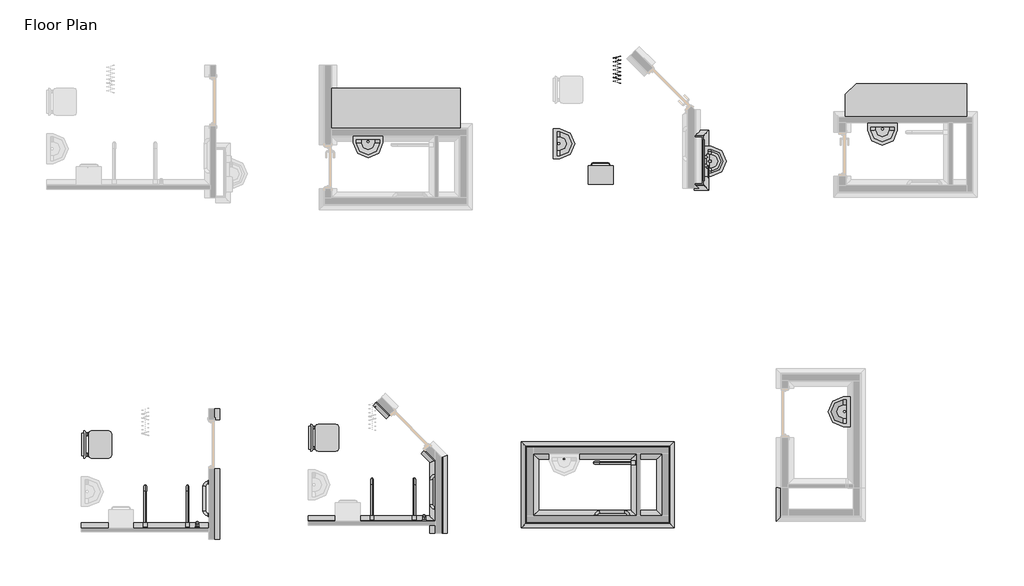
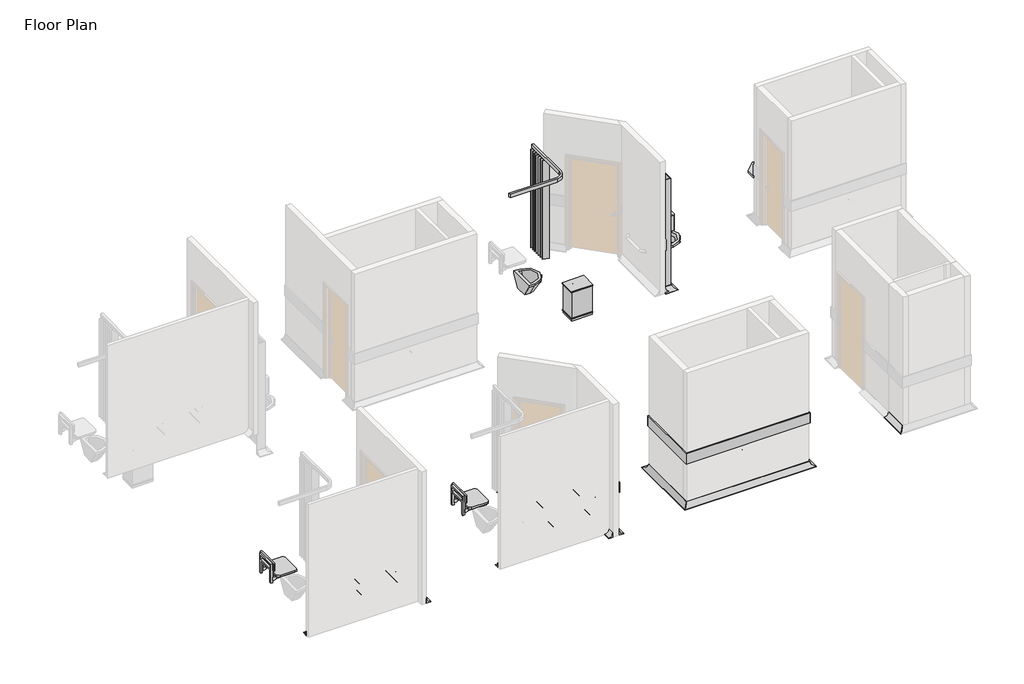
# One storey, part 2 of 4: 34 proxies, 6 flow terminals, 6 furniture elements.
"""IFC4 building model written with IfcOpenShell, lengths in millimetres."""

from ifc_helpers import new_model, si_unit, point, frame, frame_2d, origin, place, context, project, spatial, polyline, circle_curve, ellipse_curve, trimmed, segment, composite_curve, outline, extrude, transform, mapped, element, save
from ifc_brep_helpers import plane_surface, revolved_surface, advanced_brep
from components import generic_models_2748bf89, generic_models_79982e2d, type_1_021b8e3e, type_1_c6378e0a, type_1_5029713c, flow_terminal_1693ed64, flow_terminal_004a381b, flow_terminal_30861e1c, furniture_166ce8d1, furniture_c6a9ce10, furniture_a9c8da33, furniture_eb258ce7, nurse_station_nurse_station_bd2f0480, nurse_station2_nurse_station_97ff44f3

model = new_model("IFC4")

# Units and contexts
model_context = context("Model", 3, world=origin())
ifc_project = project(units=[si_unit("LENGTHUNIT", "METRE", prefix="MILLI")], contexts=[model_context])

# Site, building, storey
site = spatial("IfcSite", under=ifc_project)
building = spatial("IfcBuilding", under=site)
storey = spatial("IfcBuildingStorey", under=building, Name="Floor Plan", Elevation=0.0)

# Proxies
placement = place(None, origin())
element("IfcBuildingElementProxy", 1, Name="Wall Sweeps", at=placement, inside=storey, context=model_context, shape_type="AdvancedBrep", body=[
    advanced_brep(
    [(51772.6778474, -17067.8650189, 0.0), (51672.6778474, -17067.8650189, 0.0), (51672.6778474, -17067.8650189, 10.0), (51762.6778474, -17067.8650189, 100.0), (51772.6778474, -17067.8650189, 100.0), (51772.6778474, -17582.1150189, 0.0), (51772.6778474, -17582.1150189, 100.0), (51762.6778474, -17592.1150189, 100.0), (51672.6778474, -17682.1150189, 10.0), (51672.6778474, -17682.1150189, 0.0)],
    [
        (0, 1),
        (1, 2),
        (2, 3, circle_curve(frame((51672.6778474, -17067.8650189, 100.0), z_axis=(0.0, -1.0, 0.0), x_axis=(-1.0, 0.0, 0.0)), 90.0)),
        (3, 4),
        (4, 0),
        (5, 6),
        (6, 7),
        (7, 8, ellipse_curve(frame((51672.6778474, -17682.1150189, 100.0), z_axis=(-0.7071067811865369, 0.7071067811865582, 0.0), x_axis=(-0.7071067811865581, -0.7071067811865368, 0.0)), 127.2792206, 90.0)),
        (8, 9),
        (9, 5),
        (0, 5),
        (9, 1),
        (8, 2),
        (7, 3),
        (6, 4),
    ],
    [
        plane_surface(frame((51772.6778474, -17067.8650189, -304.8), z_axis=(0.0, 1.0, 0.0), x_axis=(1.0, 0.0, 0.0))),
        plane_surface(frame((51772.6778474, -17582.1150189, -304.8), z_axis=(0.7071067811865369, -0.7071067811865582, 0.0), x_axis=(0.7071067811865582, 0.7071067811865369, 0.0))),
        plane_surface(frame((51772.6778474, -17067.8650189, 0.0), z_axis=(0.0, 0.0, -1.0), x_axis=(0.0, -1.0, 0.0))),
        plane_surface(frame((51672.6778474, -17067.8650189, 0.0), z_axis=(-1.0, 0.0, 0.0), x_axis=(0.0, -1.0, 0.0))),
        revolved_surface(polyline([(51582.6778474, -17772.115018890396, 100.0), (51582.6778474, -17067.8650189, 100.0)]), (51672.6778474, -17067.8650189, 100.0), (0.0, -1.0, 0.0)),
        plane_surface(frame((51762.6778474, -17067.8650189, 100.0), z_axis=(0.0, 0.0, 1.0), x_axis=(0.0, -1.0, 0.0))),
        plane_surface(frame((51772.6778474, -17067.8650189, 100.0), z_axis=(1.0, 0.0, 0.0), x_axis=(0.0, -1.0, 0.0))),
    ],
    [
        (0, [[1, 2, 3, 4, 5]]),
        (1, [[6, 7, 8, 9, 10]]),
        (2, [[-1, 11, -10, 12]]),
        (3, [[-2, -12, -9, 13]]),
        (4, [[-3, -13, -8, 14]]),
        (5, [[-4, -14, -7, 15]]),
        (6, [[-5, -15, -6, -11]]),
    ],
),
])
element("IfcBuildingElementProxy", 2, Name="Wall Sweeps", at=placement, inside=storey, context=model_context, shape_type="AdvancedBrep", body=[
    advanced_brep(
    [(45514.4332264, -16509.531488, 0.0), (45514.4332264, -16509.531488, 100.0), (45524.4332264, -16505.3893523, 100.0), (45614.4332264, -16468.1101317, 10.0), (45614.4332264, -16468.1101317, 0.0), (45514.4332264, -17901.9449619, 0.0), (45614.4332264, -17901.9449619, 0.0), (45614.4332264, -17901.9449619, 10.0), (45524.4332264, -17901.9449619, 100.0), (45514.4332264, -17901.9449619, 100.0)],
    [
        (0, 1),
        (1, 2),
        (2, 3, ellipse_curve(frame((45614.4332264, -16468.1101317, 100.0), z_axis=(0.3826834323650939, -0.9238795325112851, 0.0), x_axis=(-0.9238795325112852, -0.38268343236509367, 0.0)), 97.415298, 90.0)),
        (3, 4),
        (4, 0),
        (5, 6),
        (6, 7),
        (7, 8, circle_curve(frame((45614.4332264, -17901.9449619, 100.0), z_axis=(0.0, 1.0, 0.0), x_axis=(1.0, 0.0, 0.0)), 90.0)),
        (8, 9),
        (9, 5),
        (0, 5),
        (9, 1),
        (8, 2),
        (7, 3),
        (6, 4),
    ],
    [
        plane_surface(frame((45514.4332264, -16509.531488, 304.8), z_axis=(-0.3826834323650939, 0.9238795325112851, 0.0), x_axis=(-0.9238795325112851, -0.3826834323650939, 0.0))),
        plane_surface(frame((45413.9344702, -17901.9449619, 0.0), z_axis=(0.0, -1.0, 0.0), x_axis=(0.0, 0.0, -1.0))),
        plane_surface(frame((45514.4332264, -16509.531488, 0.0), z_axis=(-1.0, 0.0, 0.0), x_axis=(0.0, -1.0, 0.0))),
        plane_surface(frame((45514.4332264, -16509.531488, 100.0), z_axis=(0.0, 0.0, 1.0), x_axis=(0.0, -1.0, 0.0))),
        revolved_surface(polyline([(45704.4332264, -17901.9449619, 100.0), (45704.4332264, -16430.83091109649, 100.0)]), (45614.4332264, -16509.531488, 100.0), (0.0, -1.0, 0.0)),
        plane_surface(frame((45614.4332264, -16468.1101317, 10.0), z_axis=(1.0, 0.0, 0.0), x_axis=(0.0, -1.0, 0.0))),
        plane_surface(frame((45614.4332264, -16468.1101317, 0.0), z_axis=(0.0, 0.0, -1.0), x_axis=(0.0, -1.0, 0.0))),
    ],
    [
        (0, [[1, 2, 3, 4, 5]]),
        (1, [[6, 7, 8, 9, 10]]),
        (2, [[-1, 11, -10, 12]]),
        (3, [[-2, -12, -9, 13]]),
        (4, [[-3, -13, -8, 14]]),
        (5, [[-4, -14, -7, 15]]),
        (6, [[-5, -15, -6, -11]]),
    ],
),
])
element("IfcBuildingElementProxy", 3, Name="Wall Sweeps", at=placement, inside=storey, context=model_context, shape_type="SweptSolid", body=[
    extrude(outline(composite_curve([segment(polyline([(-17685.4449619, 0.0), (-17685.4449619, 100.0), (-17675.4449619, 100.0)]), True, "CONTINUOUS"), segment(trimmed(circle_curve(frame_2d((-17585.4449619, 100.0)), 90.0), [point((-17675.4449619, 100.0))], [point((-17585.4449619, 10.0))], True, "CARTESIAN"), True, "CONTINUOUS"), segment(polyline([(-17585.4449619, 10.0), (-17585.4449619, 0.0), (-17685.4449619, 0.0)]), True, "CONTINUOUS")], self_intersect=False)), frame((43053.6832264, 0.0, 0.0), z_axis=(1.0, 0.0, 0.0), x_axis=(0.0, 1.0, 0.0)), (0.0, 0.0, 1.0), 2339.25),
])
element("IfcBuildingElementProxy", 4, Name="Wall Sweeps", at=placement, inside=storey, context=model_context, shape_type="AdvancedBrep", body=[
    advanced_brep(
    [(45392.9332264, -16559.8584358, 0.0), (45292.9332264, -16601.279792, 0.0), (45292.9332264, -16601.279792, 10.0), (45382.9332264, -16564.0005714, 100.0), (45392.9332264, -16559.8584358, 100.0), (45392.9332264, -17901.9449619, 0.0), (45392.9332264, -17901.9449619, 100.0), (45382.9332264, -17901.9449619, 100.0), (45292.9332264, -17901.9449619, 10.0), (45292.9332264, -17901.9449619, 0.0)],
    [
        (0, 1),
        (1, 2),
        (2, 3, ellipse_curve(frame((45292.9332264, -16601.279792, 100.0), z_axis=(0.3826834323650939, -0.9238795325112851, 0.0), x_axis=(-0.9238795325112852, -0.38268343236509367, 0.0)), 97.415298, 90.0)),
        (3, 4),
        (4, 0),
        (5, 6),
        (6, 7),
        (7, 8, circle_curve(frame((45292.9332264, -17901.9449619, 100.0), z_axis=(0.0, 1.0, 0.0), x_axis=(-1.0, 0.0, 0.0)), 90.0)),
        (8, 9),
        (9, 5),
        (0, 5),
        (9, 1),
        (8, 2),
        (7, 3),
        (6, 4),
    ],
    [
        plane_surface(frame((45392.9332264, -16559.8584358, 304.8), z_axis=(-0.3826834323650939, 0.9238795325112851, 0.0), x_axis=(-0.9238795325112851, -0.3826834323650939, 0.0))),
        plane_surface(frame((45292.4344702, -17901.9449619, 0.0), z_axis=(0.0, -1.0, 0.0), x_axis=(0.0, 0.0, -1.0))),
        plane_surface(frame((45392.9332264, -16559.8584358, 0.0), z_axis=(0.0, 0.0, -1.0), x_axis=(0.0, -1.0, 0.0))),
        plane_surface(frame((45292.9332264, -16601.279792, 0.0), z_axis=(-1.0, 0.0, 0.0), x_axis=(0.0, -1.0, 0.0))),
        revolved_surface(polyline([(45202.9332264, -17901.9449619, 100.0), (45202.9332264, -16564.000571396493, 100.0)]), (45292.9332264, -16559.8584358, 100.0), (0.0, -1.0, 0.0)),
        plane_surface(frame((45382.9332264, -16564.0005714, 100.0), z_axis=(0.0, 0.0, 1.0), x_axis=(0.0, -1.0, 0.0))),
        plane_surface(frame((45392.9332264, -16559.8584358, 100.0), z_axis=(1.0, 0.0, 0.0), x_axis=(0.0, -1.0, 0.0))),
    ],
    [
        (0, [[1, 2, 3, 4, 5]]),
        (1, [[6, 7, 8, 9, 10]]),
        (2, [[-1, 11, -10, 12]]),
        (3, [[-2, -12, -9, 13]]),
        (4, [[-3, -13, -8, 14]]),
        (5, [[-4, -14, -7, 15]]),
        (6, [[-5, -15, -6, -11]]),
    ],
),
])
element("IfcBuildingElementProxy", 5, Name="Wall Sweeps", at=placement, inside=storey, context=model_context, shape_type="SweptSolid", body=[
    extrude(outline(polyline([(45514.4332264, -16509.531488), (45533.4332264, -16509.531488), (45533.4332264, -17901.9449619), (45514.4332264, -17901.9449619), (45514.4332264, -16509.531488)])), frame((0.0, 0.0, 965.0), z_axis=(0.0, 0.0, 1.0), x_axis=(1.0, 0.0, 0.0)), (0.0, 0.0, 1.0), 235.0),
])
element("IfcBuildingElementProxy", 6, Name="Wall Sweeps", at=placement, inside=storey, context=model_context, shape_type="AdvancedBrep", body=[
    advanced_brep(
    [(44557.8824142, -15724.8076236, 0.0), (44557.8824142, -15724.8076236, 100.0), (44550.8113464, -15731.8786914, 100.0), (44487.1717361, -15795.5183017, 10.0), (44487.1717361, -15795.5183017, 0.0), (44317.2264894, -15484.1516988, 0.0), (44246.5158113, -15554.8623769, 0.0), (44246.5158113, -15554.8623769, 10.0), (44310.1554216, -15491.2227666, 100.0), (44317.2264894, -15484.1516988, 100.0)],
    [
        (0, 1),
        (1, 2),
        (2, 3, circle_curve(frame((44487.1717361, -15795.5183017, 100.0), z_axis=(-0.7071067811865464, 0.7071067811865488, 0.0), x_axis=(-0.7071067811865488, -0.7071067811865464, 0.0)), 90.0)),
        (3, 4),
        (4, 0),
        (5, 6),
        (6, 7),
        (7, 8, circle_curve(frame((44246.5158113, -15554.8623769, 100.0), z_axis=(0.7071067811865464, -0.7071067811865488, 0.0), x_axis=(-0.7071067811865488, -0.7071067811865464, 0.0)), 90.0)),
        (8, 9),
        (9, 5),
        (0, 5),
        (9, 1),
        (8, 2),
        (7, 3),
        (6, 4),
    ],
    [
        plane_surface(frame((44557.8824142, -15724.8076236, 100.4987562), z_axis=(0.707106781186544, -0.7071067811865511, 0.0), x_axis=(0.7071067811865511, 0.707106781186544, 0.0))),
        plane_surface(frame((44317.2264894, -15484.1516988, 100.4987562), z_axis=(-0.707106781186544, 0.7071067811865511, 0.0), x_axis=(0.7071067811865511, 0.707106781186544, 0.0))),
        plane_surface(frame((44557.8824142, -15724.8076236, 0.0), z_axis=(0.7071067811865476, 0.7071067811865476, 0.0), x_axis=(-0.7071067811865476, 0.7071067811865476, 0.0))),
        plane_surface(frame((44557.8824142, -15724.8076236, 100.0), z_axis=(0.0, 0.0, 1.0000000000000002), x_axis=(-0.7071067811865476, 0.7071067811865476, 0.0))),
        revolved_surface(polyline([(44182.87620099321, -15618.50198720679, 100.0), (44423.53212579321, -15859.157912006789, 100.0)]), (44487.1717361, -15795.5183017, 100.0), (-0.7071067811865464, 0.7071067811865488, 0.0)),
        plane_surface(frame((44487.1717361, -15795.5183017, 10.0), z_axis=(-0.7071067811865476, -0.7071067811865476, 0.0), x_axis=(-0.7071067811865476, 0.7071067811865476, 0.0))),
        plane_surface(frame((44487.1717361, -15795.5183017, 0.0), z_axis=(0.0, 0.0, -1.0000000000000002), x_axis=(-0.7071067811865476, 0.7071067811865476, 0.0))),
    ],
    [
        (0, [[1, 2, 3, 4, 5]]),
        (1, [[6, 7, 8, 9, 10]]),
        (2, [[-1, 11, -10, 12]]),
        (3, [[-2, -12, -9, 13]]),
        (4, [[-3, -13, -8, 14]]),
        (5, [[-4, -14, -7, 15]]),
        (6, [[-5, -15, -6, -11]]),
    ],
),
    advanced_brep(
    [(45392.9332264, -16559.8584358, 0.0), (45392.9332264, -16559.8584358, 100.0), (45382.9332264, -16564.0005714, 100.0), (45292.9332264, -16601.279792, 10.0), (45292.9332264, -16601.279792, 0.0), (45201.3495851, -16368.2747945, 0.0), (45130.638907, -16438.9854726, 0.0), (45130.638907, -16438.9854726, 10.0), (45194.2785173, -16375.3458623, 100.0), (45201.3495851, -16368.2747945, 100.0)],
    [
        (0, 1),
        (1, 2),
        (2, 3, ellipse_curve(frame((45292.9332264, -16601.279792, 100.0), z_axis=(-0.3826834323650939, 0.9238795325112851, 0.0), x_axis=(-0.9238795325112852, -0.38268343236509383, 0.0)), 97.415298, 90.0)),
        (3, 4),
        (4, 0),
        (5, 6),
        (6, 7),
        (7, 8, circle_curve(frame((45130.638907, -16438.9854726, 100.0), z_axis=(0.7071067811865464, -0.7071067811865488, 0.0), x_axis=(-0.7071067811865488, -0.7071067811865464, 0.0)), 90.0)),
        (8, 9),
        (9, 5),
        (0, 5),
        (9, 1),
        (8, 2),
        (7, 3),
        (6, 4),
    ],
    [
        plane_surface(frame((45392.9332264, -16559.8584358, -304.8), z_axis=(0.3826834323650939, -0.9238795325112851, 0.0), x_axis=(-0.9238795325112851, -0.3826834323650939, 0.0))),
        plane_surface(frame((45201.3495851, -16368.2747945, 100.4987562), z_axis=(-0.7071067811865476, 0.7071067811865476, 0.0), x_axis=(0.7071067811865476, 0.7071067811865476, 0.0))),
        plane_surface(frame((45392.9332264, -16559.8584358, 0.0), z_axis=(0.7071067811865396, 0.7071067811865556, 0.0), x_axis=(-0.7071067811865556, 0.7071067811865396, 0.0))),
        plane_surface(frame((45392.9332264, -16559.8584358, 100.0), z_axis=(0.0, 0.0, 1.0), x_axis=(-0.7071067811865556, 0.7071067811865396, 0.0))),
        revolved_surface(polyline([(45066.99929669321, -16502.62508290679, 100.0), (45255.65400579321, -16691.279792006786, 100.0)]), (45322.2225483, -16630.5691139, 100.0), (-0.7071067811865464, 0.7071067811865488, 0.0)),
        plane_surface(frame((45292.9332264, -16601.279792, 10.0), z_axis=(-0.7071067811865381, -0.707106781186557, 0.0), x_axis=(-0.707106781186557, 0.7071067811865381, 0.0))),
        plane_surface(frame((45292.9332264, -16601.279792, 0.0), z_axis=(0.0, 0.0, -1.0000000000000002), x_axis=(-0.707106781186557, 0.7071067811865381, 0.0))),
    ],
    [
        (0, [[1, 2, 3, 4, 5]]),
        (1, [[6, 7, 8, 9, 10]]),
        (2, [[-1, 11, -10, 12]]),
        (3, [[-2, -12, -9, 13]]),
        (4, [[-3, -13, -8, 14]]),
        (5, [[-4, -14, -7, 15]]),
        (6, [[-5, -15, -6, -11]]),
    ],
),
])
element("IfcBuildingElementProxy", 7, Name="Wall Sweeps", at=placement, inside=storey, context=model_context, shape_type="SweptSolid", body=[
    extrude(outline(polyline([(44557.8824142, -15724.8076236), (44544.4473853, -15738.2426524), (44303.7914606, -15497.5867277), (44317.2264894, -15484.1516988), (44557.8824142, -15724.8076236)])), frame((0.0, 0.0, 965.0), z_axis=(0.0, 0.0, 1.0), x_axis=(1.0, 0.0, 0.0)), (0.0, 0.0, 1.0), 235.0),
    extrude(outline(polyline([(45392.9332264, -16559.8584358), (45379.4981976, -16573.2934646), (45187.9145562, -16381.7098233), (45201.3495851, -16368.2747945), (45392.9332264, -16559.8584358)])), frame((0.0, 0.0, 965.0), z_axis=(0.0, 0.0, 1.0), x_axis=(1.0, 0.0, 0.0)), (0.0, 0.0, 1.0), 235.0),
])
element("IfcBuildingElementProxy", 8, Name="Wall Sweeps", at=placement, inside=storey, context=model_context, shape_type="SweptSolid", body=[
    extrude(outline(composite_curve([segment(polyline([(0.0, 41325.3426729), (0.0, 41425.3426729), (10.0, 41425.3426729)]), True, "CONTINUOUS"), segment(trimmed(circle_curve(frame_2d((100.0, 41425.3426729)), 90.0), [point((10.0, 41425.3426729))], [point((100.0, 41335.3426729))], True, "CARTESIAN"), True, "CONTINUOUS"), segment(polyline([(100.0, 41335.3426729), (100.0, 41325.3426729), (0.0, 41325.3426729)]), True, "CONTINUOUS")], self_intersect=False)), frame((0.0, -18009.8718225, 0.0), z_axis=(0.0, 1.0, 0.0), x_axis=(0.0, 0.0, 1.0)), (0.0, 0.0, 1.0), 1290.0),
    extrude(outline(composite_curve([segment(polyline([(0.0, 41325.3426729), (0.0, 41425.3426729), (10.0, 41425.3426729)]), True, "CONTINUOUS"), segment(trimmed(circle_curve(frame_2d((100.0, 41425.3426729)), 90.0), [point((10.0, 41425.3426729))], [point((100.0, 41335.3426729))], True, "CARTESIAN"), True, "CONTINUOUS"), segment(polyline([(100.0, 41335.3426729), (100.0, 41325.3426729), (0.0, 41325.3426729)]), True, "CONTINUOUS")], self_intersect=False)), frame((0.0, -15809.8718225, 0.0), z_axis=(0.0, 1.0, 0.0), x_axis=(0.0, 0.0, 1.0)), (0.0, 0.0, 1.0), 200.0),
])
element("IfcBuildingElementProxy", 9, Name="Wall Sweeps", at=placement, inside=storey, context=model_context, shape_type="SweptSolid", body=[
    extrude(outline(composite_curve([segment(polyline([(-17809.8718225, 0.0), (-17809.8718225, 100.0), (-17799.8718225, 100.0)]), True, "CONTINUOUS"), segment(trimmed(circle_curve(frame_2d((-17709.8718225, 100.0)), 90.0), [point((-17799.8718225, 100.0))], [point((-17709.8718225, 10.0))], True, "CARTESIAN"), True, "CONTINUOUS"), segment(polyline([(-17709.8718225, 10.0), (-17709.8718225, 0.0), (-17809.8718225, 0.0)]), True, "CONTINUOUS")], self_intersect=False)), frame((38875.3426729, 0.0, 0.0), z_axis=(1.0, 0.0, 0.0), x_axis=(0.0, 1.0, 0.0)), (0.0, 0.0, 1.0), 2350.0),
])
element("IfcBuildingElementProxy", 10, Name="Wall Sweeps", at=placement, inside=storey, context=model_context, shape_type="AdvancedBrep", body=[
    advanced_brep(
    [(47076.3138428, -17703.6150189, 0.0), (46976.3138428, -17803.6150189, 0.0), (46976.3138428, -17803.6150189, 10.0), (47066.3138428, -17713.6150189, 100.0), (47076.3138428, -17703.6150189, 100.0), (49692.8138428, -17703.6150189, 0.0), (49692.8138428, -17703.6150189, 100.0), (49702.8138428, -17713.6150189, 100.0), (49792.8138428, -17803.6150189, 10.0), (49792.8138428, -17803.6150189, 0.0)],
    [
        (0, 1),
        (1, 2),
        (2, 3, ellipse_curve(frame((46976.3138428, -17803.6150189, 100.0), z_axis=(0.7071067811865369, -0.7071067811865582, 0.0), x_axis=(0.707106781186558, 0.7071067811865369, 0.0)), 127.2792206, 90.0)),
        (3, 4),
        (4, 0),
        (5, 6),
        (6, 7),
        (7, 8, ellipse_curve(frame((49792.8138428, -17803.6150189, 100.0), z_axis=(-0.7071067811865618, -0.7071067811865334, 0.0), x_axis=(0.7071067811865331, -0.7071067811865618, 0.0)), 127.2792206, 90.0)),
        (8, 9),
        (9, 5),
        (4, 6),
        (5, 0),
        (3, 7),
        (2, 8),
        (1, 9),
    ],
    [
        plane_surface(frame((47076.3138428, -17703.6150189, -304.8), z_axis=(-0.7071067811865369, 0.7071067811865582, 0.0), x_axis=(0.7071067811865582, 0.7071067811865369, 0.0))),
        plane_surface(frame((49692.8138428, -17703.6150189, -304.8), z_axis=(0.7071067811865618, 0.7071067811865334, 0.0), x_axis=(-0.7071067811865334, 0.7071067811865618, 0.0))),
        plane_surface(frame((47076.3138428, -17703.6150189, 100.0), z_axis=(0.0, 1.0, 0.0), x_axis=(1.0, 0.0, 0.0))),
        plane_surface(frame((47066.3138428, -17713.6150189, 100.0), z_axis=(0.0, 0.0, 1.0), x_axis=(1.0, 0.0, 0.0))),
        revolved_surface(polyline([(49882.8138427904, -17893.6150189, 100.0), (46886.3138428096, -17893.6150189, 100.0)]), (47076.3138428, -17803.6150189, 100.0), (1.0, 0.0, 0.0)),
        plane_surface(frame((46976.3138428, -17803.6150189, 0.0), z_axis=(0.0, -1.0, 0.0), x_axis=(1.0, 0.0, 0.0))),
        plane_surface(frame((47076.3138428, -17703.6150189, 0.0), z_axis=(0.0, 0.0, -1.0), x_axis=(1.0, 0.0, 0.0))),
    ],
    [
        (0, [[1, 2, 3, 4, 5]]),
        (1, [[6, 7, 8, 9, 10]]),
        (2, [[-5, 11, -6, 12]]),
        (3, [[-4, 13, -7, -11]]),
        (4, [[-3, 14, -8, -13]]),
        (5, [[-2, 15, -9, -14]]),
        (6, [[-1, -12, -10, -15]]),
    ],
),
])
element("IfcBuildingElementProxy", 11, Name="Wall Sweeps", at=placement, inside=storey, context=model_context, shape_type="AdvancedBrep", body=[
    advanced_brep(
    [(47197.8138428, -17582.1150189, 0.0), (47197.8138428, -17582.1150189, 100.0), (47207.8138428, -17572.1150189, 100.0), (47297.8138428, -17482.1150189, 10.0), (47297.8138428, -17482.1150189, 0.0), (49571.3138428, -17582.1150189, 0.0), (49471.3138428, -17482.1150189, 0.0), (49471.3138428, -17482.1150189, 10.0), (49561.3138428, -17572.1150189, 100.0), (49571.3138428, -17582.1150189, 100.0)],
    [
        (0, 1),
        (1, 2),
        (2, 3, ellipse_curve(frame((47297.8138428, -17482.1150189, 100.0), z_axis=(0.7071067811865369, -0.7071067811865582, 0.0), x_axis=(0.707106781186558, 0.7071067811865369, 0.0)), 127.2792206, 90.0)),
        (3, 4),
        (4, 0),
        (5, 6),
        (6, 7),
        (7, 8, ellipse_curve(frame((49471.3138428, -17482.1150189, 100.0), z_axis=(-0.7071067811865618, -0.7071067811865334, 0.0), x_axis=(0.7071067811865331, -0.7071067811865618, 0.0)), 127.2792206, 90.0)),
        (8, 9),
        (9, 5),
        (4, 6),
        (5, 0),
        (3, 7),
        (2, 8),
        (1, 9),
    ],
    [
        plane_surface(frame((47197.8138428, -17582.1150189, -304.8), z_axis=(-0.7071067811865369, 0.7071067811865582, 0.0), x_axis=(0.7071067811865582, 0.7071067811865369, 0.0))),
        plane_surface(frame((49571.3138428, -17582.1150189, -304.8), z_axis=(0.7071067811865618, 0.7071067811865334, 0.0), x_axis=(-0.7071067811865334, 0.7071067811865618, 0.0))),
        plane_surface(frame((47297.8138428, -17482.1150189, 0.0), z_axis=(0.0, 0.0, -1.0), x_axis=(1.0, 0.0, 0.0))),
        plane_surface(frame((47297.8138428, -17482.1150189, 10.0), z_axis=(0.0, 1.0, 0.0), x_axis=(1.0, 0.0, 0.0))),
        revolved_surface(polyline([(49561.3138428, -17392.1150189, 100.0), (47207.8138428, -17392.1150189, 100.0)]), (47197.8138428, -17482.1150189, 100.0), (1.0, 0.0, 0.0)),
        plane_surface(frame((47197.8138428, -17582.1150189, 100.0), z_axis=(0.0, 0.0, 1.0), x_axis=(1.0, 0.0, 0.0))),
        plane_surface(frame((47197.8138428, -17582.1150189, 0.0), z_axis=(0.0, -1.0, 0.0), x_axis=(1.0, 0.0, 0.0))),
    ],
    [
        (0, [[1, 2, 3, 4, 5]]),
        (1, [[6, 7, 8, 9, 10]]),
        (2, [[-5, 11, -6, 12]]),
        (3, [[-4, 13, -7, -11]]),
        (4, [[-3, 14, -8, -13]]),
        (5, [[-2, 15, -9, -14]]),
        (6, [[-1, -12, -10, -15]]),
    ],
),
])
element("IfcBuildingElementProxy", 12, Name="Wall Sweeps", at=placement, inside=storey, context=model_context, shape_type="SweptSolid", body=[
    extrude(outline(polyline([(47057.3138428, -17722.6150189), (47076.3138428, -17703.6150189), (49692.8138428, -17703.6150189), (49711.8138428, -17722.6150189), (47057.3138428, -17722.6150189)])), frame((0.0, 0.0, 965.0), z_axis=(0.0, 0.0, 1.0), x_axis=(1.0, 0.0, 0.0)), (0.0, 0.0, 1.0), 235.0),
])
element("IfcBuildingElementProxy", 13, Name="Wall Sweeps", at=placement, inside=storey, context=model_context, shape_type="AdvancedBrep", body=[
    advanced_brep(
    [(47076.3138428, -17703.6150189, 0.0), (47076.3138428, -17703.6150189, 100.0), (47066.3138428, -17713.6150189, 100.0), (46976.3138428, -17803.6150189, 10.0), (46976.3138428, -17803.6150189, 0.0), (47076.3138428, -16321.3650189, 0.0), (46976.3138428, -16221.3650189, 0.0), (46976.3138428, -16221.3650189, 10.0), (47066.3138428, -16311.3650189, 100.0), (47076.3138428, -16321.3650189, 100.0), (47076.3138428, -17582.1150189, 0.0)],
    [
        (0, 1),
        (1, 2),
        (2, 3, ellipse_curve(frame((46976.3138428, -17803.6150189, 100.0), z_axis=(-0.7071067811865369, 0.7071067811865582, 0.0), x_axis=(0.7071067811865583, 0.7071067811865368, 0.0)), 127.2792206, 90.0)),
        (3, 4),
        (4, 0),
        (5, 6),
        (6, 7),
        (7, 8, ellipse_curve(frame((46976.3138428, -16221.3650189, 100.0), z_axis=(-0.7071067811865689, -0.7071067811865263, 0.0), x_axis=(-0.7071067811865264, 0.7071067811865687, 0.0)), 127.2792206, 90.0)),
        (8, 9),
        (9, 5),
        (0, 10),
        (10, 5),
        (9, 1),
        (8, 2),
        (7, 3),
        (6, 4),
    ],
    [
        plane_surface(frame((47076.3138428, -17703.6150189, 304.8), z_axis=(0.7071067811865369, -0.7071067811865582, 0.0), x_axis=(0.7071067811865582, 0.7071067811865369, 0.0))),
        plane_surface(frame((47076.3138428, -16321.3650189, 304.8), z_axis=(0.7071067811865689, 0.7071067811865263, 0.0), x_axis=(0.7071067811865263, -0.7071067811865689, 0.0))),
        plane_surface(frame((47076.3138428, -17703.6150189, 0.0), z_axis=(1.0, 0.0, 0.0), x_axis=(0.0, 1.0, 0.0))),
        plane_surface(frame((47076.3138428, -17703.6150189, 100.0), z_axis=(0.0, 0.0, 1.0), x_axis=(0.0, 1.0, 0.0))),
        revolved_surface(polyline([(46886.3138428, -16131.365018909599, 100.0), (46886.3138428, -17893.615018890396, 100.0)]), (46976.3138428, -17703.6150189, 100.0), (0.0, 1.0, 0.0)),
        plane_surface(frame((46976.3138428, -17803.6150189, 10.0), z_axis=(-1.0, 0.0, 0.0), x_axis=(0.0, 1.0, 0.0))),
        plane_surface(frame((46976.3138428, -17803.6150189, 0.0), z_axis=(0.0, 0.0, -1.0), x_axis=(0.0, 1.0, 0.0))),
    ],
    [
        (0, [[1, 2, 3, 4, 5]]),
        (1, [[6, 7, 8, 9, 10]]),
        (2, [[-1, 11, 12, -10, 13]]),
        (3, [[-2, -13, -9, 14]]),
        (4, [[-3, -14, -8, 15]]),
        (5, [[-4, -15, -7, 16]]),
        (6, [[-5, -16, -6, -12, -11]]),
    ],
),
])
element("IfcBuildingElementProxy", 14, Name="Wall Sweeps", at=placement, inside=storey, context=model_context, shape_type="AdvancedBrep", body=[
    advanced_brep(
    [(47197.8138428, -17582.1150189, 0.0), (47297.8138428, -17482.1150189, 0.0), (47297.8138428, -17482.1150189, 10.0), (47207.8138428, -17572.1150189, 100.0), (47197.8138428, -17582.1150189, 100.0), (47197.8138428, -16442.8650189, 0.0), (47197.8138428, -16442.8650189, 100.0), (47207.8138428, -16452.8650189, 100.0), (47297.8138428, -16542.8650189, 10.0), (47297.8138428, -16542.8650189, 0.0)],
    [
        (0, 1),
        (1, 2),
        (2, 3, ellipse_curve(frame((47297.8138428, -17482.1150189, 100.0), z_axis=(-0.7071067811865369, 0.7071067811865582, 0.0), x_axis=(0.7071067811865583, 0.7071067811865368, 0.0)), 127.2792206, 90.0)),
        (3, 4),
        (4, 0),
        (5, 6),
        (6, 7),
        (7, 8, ellipse_curve(frame((47297.8138428, -16542.8650189, 100.0), z_axis=(-0.7071067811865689, -0.7071067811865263, 0.0), x_axis=(-0.7071067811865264, 0.7071067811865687, 0.0)), 127.2792206, 90.0)),
        (8, 9),
        (9, 5),
        (0, 5),
        (9, 1),
        (8, 2),
        (7, 3),
        (6, 4),
    ],
    [
        plane_surface(frame((47197.8138428, -17582.1150189, 304.8), z_axis=(0.7071067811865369, -0.7071067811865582, 0.0), x_axis=(0.7071067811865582, 0.7071067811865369, 0.0))),
        plane_surface(frame((47197.8138428, -16442.8650189, 304.8), z_axis=(0.7071067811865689, 0.7071067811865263, 0.0), x_axis=(0.7071067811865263, -0.7071067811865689, 0.0))),
        plane_surface(frame((47197.8138428, -17582.1150189, 0.0), z_axis=(0.0, 0.0, -1.0), x_axis=(0.0, 1.0, 0.0))),
        plane_surface(frame((47297.8138428, -17482.1150189, 0.0), z_axis=(1.0, 0.0, 0.0), x_axis=(0.0, 1.0, 0.0))),
        revolved_surface(polyline([(47387.8138428, -16452.8650189, 100.0), (47387.8138428, -17572.1150189, 100.0)]), (47297.8138428, -17582.1150189, 100.0), (0.0, 1.0, 0.0)),
        plane_surface(frame((47207.8138428, -17572.1150189, 100.0), z_axis=(0.0, 0.0, 1.0), x_axis=(0.0, 1.0, 0.0))),
        plane_surface(frame((47197.8138428, -17582.1150189, 100.0), z_axis=(-1.0, 0.0, 0.0), x_axis=(0.0, 1.0, 0.0))),
    ],
    [
        (0, [[1, 2, 3, 4, 5]]),
        (1, [[6, 7, 8, 9, 10]]),
        (2, [[-1, 11, -10, 12]]),
        (3, [[-2, -12, -9, 13]]),
        (4, [[-3, -13, -8, 14]]),
        (5, [[-4, -14, -7, 15]]),
        (6, [[-5, -15, -6, -11]]),
    ],
),
])
element("IfcBuildingElementProxy", 15, Name="Wall Sweeps", at=placement, inside=storey, context=model_context, shape_type="SweptSolid", body=[
    extrude(outline(polyline([(47076.3138428, -17703.6150189), (47057.3138428, -17722.6150189), (47057.3138428, -16302.3650189), (47076.3138428, -16321.3650189), (47076.3138428, -17703.6150189)])), frame((0.0, 0.0, 965.0), z_axis=(0.0, 0.0, 1.0), x_axis=(1.0, 0.0, 0.0)), (0.0, 0.0, 1.0), 235.0),
])
element("IfcBuildingElementProxy", 16, Name="Wall Sweeps", at=placement, inside=storey, context=model_context, shape_type="SweptSolid", body=[
    extrude(outline(composite_curve([segment(polyline([(0.0, 49102.8138428), (100.0, 49102.8138428), (100.0, 49092.8138428)]), True, "CONTINUOUS"), segment(trimmed(circle_curve(frame_2d((100.0, 49002.8138428)), 90.0), [point((100.0, 49092.8138428))], [point((10.0, 49002.8138428))], True, "CARTESIAN"), True, "CONTINUOUS"), segment(polyline([(10.0, 49002.8138428), (0.0, 49002.8138428), (0.0, 49102.8138428)]), True, "CONTINUOUS")], self_intersect=False)), frame((0.0, -17582.1150189, 0.0), z_axis=(0.0, 1.0, 0.0), x_axis=(0.0, 0.0, 1.0)), (0.0, 0.0, 1.0), 1139.25),
])
element("IfcBuildingElementProxy", 17, Name="Wall Sweeps", at=placement, inside=storey, context=model_context, shape_type="AdvancedBrep", body=[
    advanced_brep(
    [(49692.8138428, -16321.3650189, 0.0), (49792.8138428, -16221.3650189, 0.0), (49792.8138428, -16221.3650189, 10.0), (49702.8138428, -16311.3650189, 100.0), (49692.8138428, -16321.3650189, 100.0), (47076.3138428, -16321.3650189, 0.0), (47076.3138428, -16321.3650189, 100.0), (47066.3138428, -16311.3650189, 100.0), (46976.3138428, -16221.3650189, 10.0), (46976.3138428, -16221.3650189, 0.0), (47197.8138428, -16321.3650189, 0.0)],
    [
        (0, 1),
        (1, 2),
        (2, 3, ellipse_curve(frame((49792.8138428, -16221.3650189, 100.0), z_axis=(-0.7071067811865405, 0.7071067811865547, 0.0), x_axis=(-0.7071067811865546, -0.7071067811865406, 0.0)), 127.2792206, 90.0)),
        (3, 4),
        (4, 0),
        (5, 6),
        (6, 7),
        (7, 8, ellipse_curve(frame((46976.3138428, -16221.3650189, 100.0), z_axis=(0.7071067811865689, 0.7071067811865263, 0.0), x_axis=(-0.7071067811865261, 0.707106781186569, 0.0)), 127.2792206, 90.0)),
        (8, 9),
        (9, 5),
        (4, 6),
        (5, 10),
        (10, 0),
        (3, 7),
        (2, 8),
        (1, 9),
    ],
    [
        plane_surface(frame((49692.8138428, -16321.3650189, -304.8), z_axis=(0.7071067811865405, -0.7071067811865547, 0.0), x_axis=(-0.7071067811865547, -0.7071067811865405, 0.0))),
        plane_surface(frame((47076.3138428, -16321.3650189, -304.8), z_axis=(-0.7071067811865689, -0.7071067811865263, 0.0), x_axis=(0.7071067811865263, -0.7071067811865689, 0.0))),
        plane_surface(frame((49692.8138428, -16321.3650189, 100.0), z_axis=(0.0, -1.0, 0.0), x_axis=(-1.0, 0.0, 0.0))),
        plane_surface(frame((49702.8138428, -16311.3650189, 100.0), z_axis=(0.0, 0.0, 1.0), x_axis=(-1.0, 0.0, 0.0))),
        revolved_surface(polyline([(46886.313842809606, -16131.3650189, 100.0), (49882.813842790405, -16131.3650189, 100.0)]), (49692.8138428, -16221.3650189, 100.0), (-1.0, 0.0, 0.0)),
        plane_surface(frame((49792.8138428, -16221.3650189, 0.0), z_axis=(0.0, 1.0, 0.0), x_axis=(-1.0, 0.0, 0.0))),
        plane_surface(frame((49692.8138428, -16321.3650189, 0.0), z_axis=(0.0, 0.0, -1.0), x_axis=(-1.0, 0.0, 0.0))),
    ],
    [
        (0, [[1, 2, 3, 4, 5]]),
        (1, [[6, 7, 8, 9, 10]]),
        (2, [[-5, 11, -6, 12, 13]]),
        (3, [[-4, 14, -7, -11]]),
        (4, [[-3, 15, -8, -14]]),
        (5, [[-2, 16, -9, -15]]),
        (6, [[-1, -13, -12, -10, -16]]),
    ],
),
])
element("IfcBuildingElementProxy", 18, Name="Wall Sweeps", at=placement, inside=storey, context=model_context, shape_type="AdvancedBrep", body=[
    advanced_brep(
    [(49571.3138428, -16442.8650189, 0.0), (49571.3138428, -16442.8650189, 100.0), (49561.3138428, -16452.8650189, 100.0), (49471.3138428, -16542.8650189, 10.0), (49471.3138428, -16542.8650189, 0.0), (47197.8138428, -16442.8650189, 0.0), (47297.8138428, -16542.8650189, 0.0), (47297.8138428, -16542.8650189, 10.0), (47207.8138428, -16452.8650189, 100.0), (47197.8138428, -16442.8650189, 100.0)],
    [
        (0, 1),
        (1, 2),
        (2, 3, ellipse_curve(frame((49471.3138428, -16542.8650189, 100.0), z_axis=(-0.7071067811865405, 0.7071067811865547, 0.0), x_axis=(-0.7071067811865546, -0.7071067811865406, 0.0)), 127.2792206, 90.0)),
        (3, 4),
        (4, 0),
        (5, 6),
        (6, 7),
        (7, 8, ellipse_curve(frame((47297.8138428, -16542.8650189, 100.0), z_axis=(0.7071067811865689, 0.7071067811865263, 0.0), x_axis=(-0.7071067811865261, 0.707106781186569, 0.0)), 127.2792206, 90.0)),
        (8, 9),
        (9, 5),
        (4, 6),
        (5, 0),
        (3, 7),
        (2, 8),
        (1, 9),
    ],
    [
        plane_surface(frame((49571.3138428, -16442.8650189, -304.8), z_axis=(0.7071067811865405, -0.7071067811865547, 0.0), x_axis=(-0.7071067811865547, -0.7071067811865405, 0.0))),
        plane_surface(frame((47197.8138428, -16442.8650189, -304.8), z_axis=(-0.7071067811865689, -0.7071067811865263, 0.0), x_axis=(0.7071067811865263, -0.7071067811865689, 0.0))),
        plane_surface(frame((49471.3138428, -16542.8650189, 0.0), z_axis=(0.0, 0.0, -1.0), x_axis=(-1.0, 0.0, 0.0))),
        plane_surface(frame((49471.3138428, -16542.8650189, 10.0), z_axis=(0.0, -1.0, 0.0), x_axis=(-1.0, 0.0, 0.0))),
        revolved_surface(polyline([(47207.8138428, -16632.8650189, 100.0), (49561.3138428, -16632.8650189, 100.0)]), (49571.3138428, -16542.8650189, 100.0), (-1.0, 0.0, 0.0)),
        plane_surface(frame((49571.3138428, -16442.8650189, 100.0), z_axis=(0.0, 0.0, 1.0), x_axis=(-1.0, 0.0, 0.0))),
        plane_surface(frame((49571.3138428, -16442.8650189, 0.0), z_axis=(0.0, 1.0, 0.0), x_axis=(-1.0, 0.0, 0.0))),
    ],
    [
        (0, [[1, 2, 3, 4, 5]]),
        (1, [[6, 7, 8, 9, 10]]),
        (2, [[-5, 11, -6, 12]]),
        (3, [[-4, 13, -7, -11]]),
        (4, [[-3, 14, -8, -13]]),
        (5, [[-2, 15, -9, -14]]),
        (6, [[-1, -12, -10, -15]]),
    ],
),
])
element("IfcBuildingElementProxy", 19, Name="Wall Sweeps", at=placement, inside=storey, context=model_context, shape_type="SweptSolid", body=[
    extrude(outline(polyline([(49711.8138428, -16302.3650189), (49692.8138428, -16321.3650189), (47076.3138428, -16321.3650189), (47057.3138428, -16302.3650189), (49711.8138428, -16302.3650189)])), frame((0.0, 0.0, 965.0), z_axis=(0.0, 0.0, 1.0), x_axis=(1.0, 0.0, 0.0)), (0.0, 0.0, 1.0), 235.0),
])
element("IfcBuildingElementProxy", 20, Name="Wall Sweeps", at=placement, inside=storey, context=model_context, shape_type="AdvancedBrep", body=[
    advanced_brep(
    [(49692.8138428, -16321.3650189, 0.0), (49692.8138428, -16321.3650189, 100.0), (49702.8138428, -16311.3650189, 100.0), (49792.8138428, -16221.3650189, 10.0), (49792.8138428, -16221.3650189, 0.0), (49692.8138428, -17703.6150189, 0.0), (49792.8138428, -17803.6150189, 0.0), (49792.8138428, -17803.6150189, 10.0), (49702.8138428, -17713.6150189, 100.0), (49692.8138428, -17703.6150189, 100.0), (49692.8138428, -16442.8650189, 0.0), (49692.8138428, -17582.1150189, 0.0)],
    [
        (0, 1),
        (1, 2),
        (2, 3, ellipse_curve(frame((49792.8138428, -16221.3650189, 100.0), z_axis=(0.7071067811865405, -0.7071067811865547, 0.0), x_axis=(-0.7071067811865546, -0.7071067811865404, 0.0)), 127.2792206, 90.0)),
        (3, 4),
        (4, 0),
        (5, 6),
        (6, 7),
        (7, 8, ellipse_curve(frame((49792.8138428, -17803.6150189, 100.0), z_axis=(0.7071067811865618, 0.7071067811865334, 0.0), x_axis=(0.7071067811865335, -0.7071067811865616, 0.0)), 127.2792206, 90.0)),
        (8, 9),
        (9, 5),
        (0, 10),
        (10, 11),
        (11, 5),
        (9, 1),
        (8, 2),
        (7, 3),
        (6, 4),
    ],
    [
        plane_surface(frame((49692.8138428, -16321.3650189, 304.8), z_axis=(-0.7071067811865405, 0.7071067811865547, 0.0), x_axis=(-0.7071067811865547, -0.7071067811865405, 0.0))),
        plane_surface(frame((49692.8138428, -17703.6150189, 304.8), z_axis=(-0.7071067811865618, -0.7071067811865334, 0.0), x_axis=(-0.7071067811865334, 0.7071067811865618, 0.0))),
        plane_surface(frame((49692.8138428, -16321.3650189, 0.0), z_axis=(-1.0, 0.0, 0.0), x_axis=(0.0, -1.0, 0.0))),
        plane_surface(frame((49692.8138428, -16321.3650189, 100.0), z_axis=(0.0, 0.0, 1.0), x_axis=(0.0, -1.0, 0.0))),
        revolved_surface(polyline([(49882.8138428, -17893.6150188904, 100.0), (49882.8138428, -16131.365018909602, 100.0)]), (49792.8138428, -16321.3650189, 100.0), (0.0, -1.0, 0.0)),
        plane_surface(frame((49792.8138428, -16221.3650189, 10.0), z_axis=(1.0, 0.0, 0.0), x_axis=(0.0, -1.0, 0.0))),
        plane_surface(frame((49792.8138428, -16221.3650189, 0.0), z_axis=(0.0, 0.0, -1.0), x_axis=(0.0, -1.0, 0.0))),
    ],
    [
        (0, [[1, 2, 3, 4, 5]]),
        (1, [[6, 7, 8, 9, 10]]),
        (2, [[-1, 11, 12, 13, -10, 14]]),
        (3, [[-2, -14, -9, 15]]),
        (4, [[-3, -15, -8, 16]]),
        (5, [[-4, -16, -7, 17]]),
        (6, [[-5, -17, -6, -13, -12, -11]]),
    ],
),
])
element("IfcBuildingElementProxy", 21, Name="Wall Sweeps", at=placement, inside=storey, context=model_context, shape_type="AdvancedBrep", body=[
    advanced_brep(
    [(49571.3138428, -16442.8650189, 0.0), (49471.3138428, -16542.8650189, 0.0), (49471.3138428, -16542.8650189, 10.0), (49561.3138428, -16452.8650189, 100.0), (49571.3138428, -16442.8650189, 100.0), (49571.3138428, -17582.1150189, 0.0), (49571.3138428, -17582.1150189, 100.0), (49561.3138428, -17572.1150189, 100.0), (49471.3138428, -17482.1150189, 10.0), (49471.3138428, -17482.1150189, 0.0)],
    [
        (0, 1),
        (1, 2),
        (2, 3, ellipse_curve(frame((49471.3138428, -16542.8650189, 100.0), z_axis=(0.7071067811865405, -0.7071067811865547, 0.0), x_axis=(-0.7071067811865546, -0.7071067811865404, 0.0)), 127.2792206, 90.0)),
        (3, 4),
        (4, 0),
        (5, 6),
        (6, 7),
        (7, 8, ellipse_curve(frame((49471.3138428, -17482.1150189, 100.0), z_axis=(0.7071067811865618, 0.7071067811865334, 0.0), x_axis=(0.7071067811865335, -0.7071067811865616, 0.0)), 127.2792206, 90.0)),
        (8, 9),
        (9, 5),
        (0, 5),
        (9, 1),
        (8, 2),
        (7, 3),
        (6, 4),
    ],
    [
        plane_surface(frame((49571.3138428, -16442.8650189, 304.8), z_axis=(-0.7071067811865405, 0.7071067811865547, 0.0), x_axis=(-0.7071067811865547, -0.7071067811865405, 0.0))),
        plane_surface(frame((49571.3138428, -17582.1150189, 304.8), z_axis=(-0.7071067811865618, -0.7071067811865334, 0.0), x_axis=(-0.7071067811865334, 0.7071067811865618, 0.0))),
        plane_surface(frame((49571.3138428, -16442.8650189, 0.0), z_axis=(0.0, 0.0, -1.0), x_axis=(0.0, -1.0, 0.0))),
        plane_surface(frame((49471.3138428, -16542.8650189, 0.0), z_axis=(-1.0, 0.0, 0.0), x_axis=(0.0, -1.0, 0.0))),
        revolved_surface(polyline([(49381.3138428, -17572.1150189, 100.0), (49381.3138428, -16452.8650189, 100.0)]), (49471.3138428, -16442.8650189, 100.0), (0.0, -1.0, 0.0)),
        plane_surface(frame((49561.3138428, -16452.8650189, 100.0), z_axis=(0.0, 0.0, 1.0), x_axis=(0.0, -1.0, 0.0))),
        plane_surface(frame((49571.3138428, -16442.8650189, 100.0), z_axis=(1.0, 0.0, 0.0), x_axis=(0.0, -1.0, 0.0))),
    ],
    [
        (0, [[1, 2, 3, 4, 5]]),
        (1, [[6, 7, 8, 9, 10]]),
        (2, [[-1, 11, -10, 12]]),
        (3, [[-2, -12, -9, 13]]),
        (4, [[-3, -13, -8, 14]]),
        (5, [[-4, -14, -7, 15]]),
        (6, [[-5, -15, -6, -11]]),
    ],
),
])
element("IfcBuildingElementProxy", 22, Name="Wall Sweeps", at=placement, inside=storey, context=model_context, shape_type="SweptSolid", body=[
    extrude(outline(polyline([(49692.8138428, -16321.3650189), (49711.8138428, -16302.3650189), (49711.8138428, -17722.6150189), (49692.8138428, -17703.6150189), (49692.8138428, -16321.3650189)])), frame((0.0, 0.0, 965.0), z_axis=(0.0, 0.0, 1.0), x_axis=(1.0, 0.0, 0.0)), (0.0, 0.0, 1.0), 235.0),
])
generic_models_shape = generic_models_2748bf89(model_context)
element("IfcBuildingElementProxy", 23, Name="BIMHealth-Seat_Shower-LOD2A-v1 : BIMHealth-Seat_Shower-LOD2A-v1", ObjectType="BIMHealth-Seat_Shower-LOD2A-v1 : BIMHealth-Seat_Shower-LOD2A-v1", at=placement, inside=storey, context=model_context, shape_type="MappedRepresentation", body=[
    mapped(generic_models_shape, transform((43061.7383303, -16394.9877239, 0.0), x_axis=(0.0, 1.0, 0.0), y_axis=(-1.0, 0.0, 0.0), z_axis=(0.0, 0.0, 1.0))),
])
element("IfcBuildingElementProxy", 24, Name="BIMHealth-Seat_Shower-LOD2A-v1 : BIMHealth-Seat_Shower-LOD2A-v1", ObjectType="BIMHealth-Seat_Shower-LOD2A-v1 : BIMHealth-Seat_Shower-LOD2A-v1", at=placement, inside=storey, context=model_context, shape_type="MappedRepresentation", body=[
    mapped(generic_models_shape, transform((38883.3977768, -16519.4145845, 0.0), x_axis=(0.0, 1.0, 0.0), y_axis=(-1.0, 0.0, 0.0), z_axis=(0.0, 0.0, 1.0))),
])
generic_models_2_shape = generic_models_79982e2d(model_context)
element("IfcBuildingElementProxy", 25, Name="BIMHealth-Grab_Rail_Drop_Down-LOD2A-v1 : RIG02_Grabrail horizontal", ObjectType="BIMHealth-Grab_Rail_Drop_Down-LOD2A-v1 : RIG02_Grabrail horizontal", at=placement, inside=storey, context=model_context, shape_type="MappedRepresentation", body=[
    mapped(generic_models_2_shape, transform((44103.6832264, -17719.6949619, 0.0), x_axis=(1.0, 0.0, 0.0), y_axis=(0.0, 1.0, 0.0), z_axis=(0.0, 0.0, 1.0))),
])
element("IfcBuildingElementProxy", 26, Name="BIMHealth-Grab_Rail_Drop_Down-LOD2A-v1 : RIG02_Grabrail horizontal", ObjectType="BIMHealth-Grab_Rail_Drop_Down-LOD2A-v1 : RIG02_Grabrail horizontal", at=placement, inside=storey, context=model_context, shape_type="MappedRepresentation", body=[
    mapped(generic_models_2_shape, transform((44883.6832264, -17719.6949619, 0.0), x_axis=(1.0, 0.0, 0.0), y_axis=(0.0, 1.0, 0.0), z_axis=(0.0, 0.0, 1.0))),
])
element("IfcBuildingElementProxy", 27, Name="BIMHealth-Grab_Rail_Drop_Down-LOD2A-v1 : RIG02_Grabrail horizontal", ObjectType="BIMHealth-Grab_Rail_Drop_Down-LOD2A-v1 : RIG02_Grabrail horizontal", at=placement, inside=storey, context=model_context, shape_type="MappedRepresentation", body=[
    mapped(generic_models_2_shape, transform((39925.3426729, -17844.1218225, 0.0), x_axis=(1.0, 0.0, 0.0), y_axis=(0.0, 1.0, 0.0), z_axis=(0.0, 0.0, 1.0))),
])
element("IfcBuildingElementProxy", 28, Name="BIMHealth-Grab_Rail_Drop_Down-LOD2A-v1 : RIG02_Grabrail horizontal", ObjectType="BIMHealth-Grab_Rail_Drop_Down-LOD2A-v1 : RIG02_Grabrail horizontal", at=placement, inside=storey, context=model_context, shape_type="MappedRepresentation", body=[
    mapped(generic_models_2_shape, transform((40705.3426729, -17844.1218225, 0.0), x_axis=(1.0, 0.0, 0.0), y_axis=(0.0, 1.0, 0.0), z_axis=(0.0, 0.0, 1.0))),
])
element("IfcBuildingElementProxy", 29, Name="BIMHealth-Grab_Rail_Drop_Down-LOD2A-v1 : RIG02_Grabrail horizontal", ObjectType="BIMHealth-Grab_Rail_Drop_Down-LOD2A-v1 : RIG02_Grabrail horizontal", at=placement, inside=storey, context=model_context, shape_type="MappedRepresentation", body=[
    mapped(generic_models_2_shape, transform((49137.0638428, -16732.1150189, 0.0), x_axis=(0.0, 1.0, 0.0), y_axis=(-1.0, 0.0, 0.0), z_axis=(0.0, 0.0, 1.0))),
])
type_1_shape = type_1_021b8e3e(model_context)
element("IfcBuildingElementProxy", 30, Name="BIMHealth-Grab_Rail_Horizontal-LOD2A-v1 : Type 1", ObjectType="BIMHealth-Grab_Rail_Horizontal-LOD2A-v1 : Type 1", at=placement, inside=storey, context=model_context, shape_type="MappedRepresentation", body=[
    mapped(type_1_shape, transform((41275.3426729, -17389.8718225, 0.0), x_axis=(0.0, 1.0, 0.0), y_axis=(-1.0, 0.0, 0.0), z_axis=(0.0, 0.0, 1.0))),
])
type_1_2_shape = type_1_c6378e0a(model_context)
element("IfcBuildingElementProxy", 31, Name="BIMHealth-Grab_Rail_Vertical-LOD2A-v1 : Type 1", ObjectType="BIMHealth-Grab_Rail_Vertical-LOD2A-v1 : Type 1", at=placement, inside=storey, context=model_context, shape_type="MappedRepresentation", body=[
    mapped(type_1_2_shape, transform((45063.6832264, -17719.6949619, 0.0), x_axis=(1.0, 0.0, 0.0), y_axis=(0.0, 1.0, 0.0), z_axis=(0.0, 0.0, 1.0))),
])
element("IfcBuildingElementProxy", 32, Name="BIMHealth-Grab_Rail_Vertical-LOD2A-v1 : Type 1", ObjectType="BIMHealth-Grab_Rail_Vertical-LOD2A-v1 : Type 1", at=placement, inside=storey, context=model_context, shape_type="MappedRepresentation", body=[
    mapped(type_1_2_shape, transform((40885.3426729, -17844.1218225, 0.0), x_axis=(1.0, 0.0, 0.0), y_axis=(0.0, 1.0, 0.0), z_axis=(0.0, 0.0, 1.0))),
])
type_1_3_shape = type_1_5029713c(model_context)
element("IfcBuildingElementProxy", 33, Name="BIMHealth-Grab_Rail_Horizontal-LOD2A-v1 : Type 1", ObjectType="BIMHealth-Grab_Rail_Horizontal-LOD2A-v1 : Type 1", at=placement, inside=storey, context=model_context, shape_type="MappedRepresentation", body=[
    mapped(type_1_3_shape, transform((48526.3138428, -17642.8650189, 0.0), x_axis=(1.0, 0.0, 0.0), y_axis=(0.0, 1.0, 0.0), z_axis=(0.0, 0.0, 1.0))),
])
element("IfcBuildingElementProxy", 34, Name="BIMHealth-Grab_Rail_Horizontal-LOD2A-v1 : Type 1", ObjectType="BIMHealth-Grab_Rail_Horizontal-LOD2A-v1 : Type 1", at=placement, inside=storey, context=model_context, shape_type="MappedRepresentation", body=[
    mapped(type_1_3_shape, transform((45453.6832264, -17265.4449619, 0.0), x_axis=(0.0, 1.0, 0.0), y_axis=(-1.0, 0.0, 0.0), z_axis=(0.0, 0.0, 1.0))),
])

# Flow terminals
flow_terminal_shape = flow_terminal_1693ed64(model_context)
element("IfcFlowTerminal", 35, ObjectType="BHMS_wash basin-LOD01 : BHMS_wash basin-LOD01", at=placement, inside=storey, context=model_context, shape_type="MappedRepresentation", body=[
    mapped(flow_terminal_shape, transform((50348.9980708, -11332.6184808, 700.0), x_axis=(0.0, 1.0, 0.0), y_axis=(-1.0, 0.0, 0.0), z_axis=(0.0, 0.0, 1.0))),
])
flow_terminal_2_shape = flow_terminal_004a381b(model_context)
element("IfcFlowTerminal", 36, ObjectType="BIMHealth-Taps_IPS-LOD2A-v1 : BIMHealth-Taps_IPS-LOD2A-v1", at=placement, inside=storey, context=model_context, shape_type="MappedRepresentation", body=[
    mapped(flow_terminal_2_shape, transform((50413.9409167, -10927.0182464, 1050.0), x_axis=(0.0, -1.0, 0.0), y_axis=(1.0, 0.0, 0.0), z_axis=(0.0, 0.0, 1.0))),
])
flow_terminal_3_shape = flow_terminal_30861e1c(model_context)
element("IfcFlowTerminal", 37, ObjectType="BIMHealth-Wash_basin_Doc_M-LOD2A-v1 : BIMHealth-Wash_basin_Doc_M-LOD2A-v1", at=placement, inside=storey, context=model_context, shape_type="MappedRepresentation", body=[
    mapped(flow_terminal_3_shape, transform((53033.4278474, -15388.6150189, 450.0), x_axis=(0.0, -1.0, 0.0), y_axis=(1.0, 0.0, 0.0), z_axis=(0.0, 0.0, 1.0))),
])
element("IfcFlowTerminal", 38, ObjectType="BIMHealth-Wash_basin_Doc_M-LOD2A-v1 : BIMHealth-Wash_basin_Doc_M-LOD2A-v1", at=placement, inside=storey, context=model_context, shape_type="MappedRepresentation", body=[
    mapped(flow_terminal_3_shape, transform((47563.9980708, -11004.1184808, 450.0), x_axis=(0.0, 1.0, 0.0), y_axis=(-1.0, 0.0, 0.0), z_axis=(0.0, 0.0, 1.0))),
])
element("IfcFlowTerminal", 39, ObjectType="BIMHealth-Wash_basin_Doc_M-LOD2A-v1 : BIMHealth-Wash_basin_Doc_M-LOD2A-v1", at=placement, inside=storey, context=model_context, shape_type="MappedRepresentation", body=[
    mapped(flow_terminal_3_shape, transform((43880.46766, -10586.8684808, -12.3997733), x_axis=(1.0, 0.0, 0.0), y_axis=(0.0, 1.0, 0.0), z_axis=(0.0, 0.0, 1.0))),
])
element("IfcFlowTerminal", 40, ObjectType="BIMHealth-Wash_basin_Doc_M-LOD2A-v1 : BIMHealth-Wash_basin_Doc_M-LOD2A-v1", at=placement, inside=storey, context=model_context, shape_type="MappedRepresentation", body=[
    mapped(flow_terminal_3_shape, transform((53354.7945525, -10353.3684808, 450.0), x_axis=(1.0, 0.0, 0.0), y_axis=(0.0, 1.0, 0.0), z_axis=(0.0, 0.0, 1.0))),
])

# Furniture
furniture_shape = furniture_166ce8d1(model_context)
element("IfcFurniture", 41, ObjectType="BIMHealth-Paper_Towel_Dispenser-LOD2A-v1 : BIMHealth-Paper_Towel_Dispenser-LOD2A-v1", at=placement, inside=storey, context=model_context, shape_type="MappedRepresentation", body=[
    mapped(furniture_shape, transform((50348.9980708, -11383.5382414, 20.0), x_axis=(0.0, 1.0, 0.0), y_axis=(-1.0, 0.0, 0.0), z_axis=(0.0, 0.0, 1.0))),
])
furniture_2_shape = furniture_c6a9ce10(model_context)
element("IfcFurniture", 42, ObjectType="BIMHealth-Bin_Clinical_Foot_Operated-LOD2A-v1 : BIMHealth-Bin_Clinical_Foot_Operated-LOD2A-v1", at=placement, inside=storey, context=model_context, shape_type="MappedRepresentation", body=[
    mapped(furniture_2_shape, transform((48658.2480708, -11463.6184808, 0.0), x_axis=(-1.0, 0.0, 0.0), y_axis=(0.0, -1.0, 0.0), z_axis=(0.0, 0.0, 1.0))),
])
furniture_3_shape = furniture_a9c8da33(model_context)
element("IfcFurniture", 43, ObjectType="BIMHealth-Curtain_Doc_M-LOD2A-v1 : BIMHealth-Curtain_Doc_M-LOD2A-v1", at=placement, inside=storey, context=model_context, shape_type="MappedRepresentation", body=[
    mapped(furniture_3_shape, transform((48763.9980708, -9114.1184808, 0.0), x_axis=(0.0, -1.0, 0.0), y_axis=(1.0, 0.0, 0.0), z_axis=(0.0, 0.0, 1.0))),
])
furniture_4_shape = furniture_eb258ce7(model_context)
element("IfcFurniture", 44, ObjectType="BIMHealth-Washstation-LOD2A-v2 : BIMHealth-Washstation-LOD2A-v1 2", at=placement, inside=storey, context=model_context, shape_type="MappedRepresentation", body=[
    mapped(furniture_4_shape, transform((50162.9980708, -10582.6184808, 0.0), x_axis=(0.0, 1.0, 0.0), y_axis=(-1.0, 0.0, 0.0), z_axis=(0.0, 0.0, 1.0))),
])
nurse_station_nurse_station_shape = nurse_station_nurse_station_bd2f0480(model_context)
element("IfcFurniture", 45, ObjectType="Nurse Station : Nurse Station", at=placement, inside=storey, context=model_context, shape_type="MappedRepresentation", body=[
    mapped(nurse_station_nurse_station_shape, transform((0.0, 0.0, 0.0), x_axis=(1.0, 0.0, 0.0), y_axis=(0.0, 1.0, 0.0), z_axis=(0.0, 0.0, 1.0))),
])
nurse_station2_nurse_station_shape = nurse_station2_nurse_station_97ff44f3(model_context)
element("IfcFurniture", 46, ObjectType="Nurse Station2 : Nurse Station", at=placement, inside=storey, context=model_context, shape_type="MappedRepresentation", body=[
    mapped(nurse_station2_nurse_station_shape, transform((0.0, 0.0, 0.0), x_axis=(1.0, 0.0, 0.0), y_axis=(0.0, 1.0, 0.0), z_axis=(0.0, 0.0, 1.0))),
])

save(model, "model.ifc")
